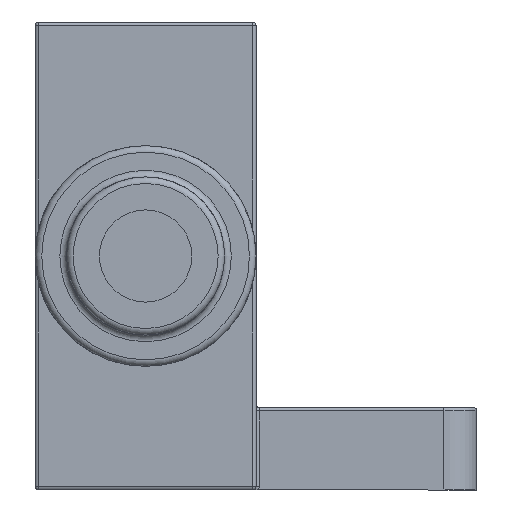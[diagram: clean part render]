
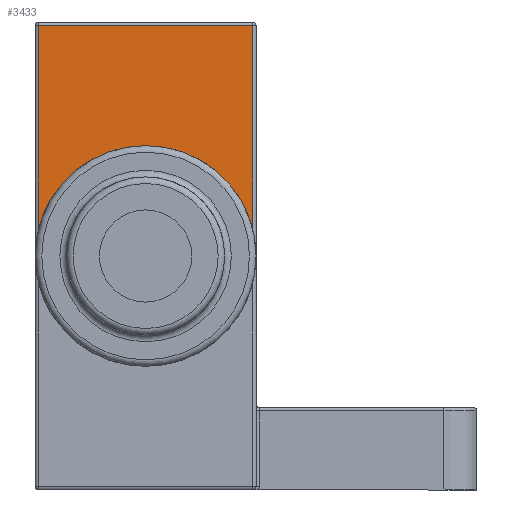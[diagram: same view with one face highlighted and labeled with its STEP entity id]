
A CAD part, front view. The second image highlights one B-rep face of the part: STEP entity #3433.
In plain terms, the highlighted planar face has unit normal (0, -1, 0).
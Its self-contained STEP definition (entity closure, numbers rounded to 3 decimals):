
#152=LINE('',#5389,#415);
#154=LINE('',#5396,#417);
#159=LINE('',#5412,#422);
#415=VECTOR('',#4260,10.);
#417=VECTOR('',#4268,10.);
#422=VECTOR('',#4287,10.);
#615=PLANE('',#3838);
#894=FACE_OUTER_BOUND('',#1134,.T.);
#1134=EDGE_LOOP('',(#2902,#2903,#2904,#2905));
#1376=CIRCLE('',#3839,3.35);
#1520=VERTEX_POINT('',#5380);
#1523=VERTEX_POINT('',#5387);
#1524=VERTEX_POINT('',#5391);
#1529=VERTEX_POINT('',#5411);
#1863=EDGE_CURVE('',#1523,#1520,#152,.T.);
#1867=EDGE_CURVE('',#1520,#1524,#154,.T.);
#1876=EDGE_CURVE('',#1524,#1529,#159,.T.);
#2087=EDGE_CURVE('',#1523,#1529,#1376,.T.);
#2902=ORIENTED_EDGE('',*,*,#2087,.T.);
#2903=ORIENTED_EDGE('',*,*,#1876,.F.);
#2904=ORIENTED_EDGE('',*,*,#1867,.F.);
#2905=ORIENTED_EDGE('',*,*,#1863,.F.);
#3433=ADVANCED_FACE('',(#894),#615,.T.);
#3838=AXIS2_PLACEMENT_3D('',#5860,#4824,#4825);
#3839=AXIS2_PLACEMENT_3D('',#5861,#4826,#4827);
#4260=DIRECTION('',(0.,0.,1.));
#4268=DIRECTION('',(1.,0.,0.));
#4287=DIRECTION('',(0.,0.,-1.));
#4824=DIRECTION('center_axis',(0.,-1.,0.));
#4825=DIRECTION('ref_axis',(1.,0.,0.));
#4826=DIRECTION('center_axis',(0.,1.,0.));
#4827=DIRECTION('ref_axis',(0.,0.,1.));
#5380=CARTESIAN_POINT('',(-8.871,-2.75,7.001));
#5387=CARTESIAN_POINT('',(-8.871,-2.75,0.813));
#5389=CARTESIAN_POINT('',(-8.871,-2.75,-7.099));
#5391=CARTESIAN_POINT('',(-2.371,-2.75,7.001));
#5396=CARTESIAN_POINT('',(-7.296,-2.75,7.001));
#5411=CARTESIAN_POINT('',(-2.371,-2.75,0.813));
#5412=CARTESIAN_POINT('',(-2.371,-2.75,-7.099));
#5860=CARTESIAN_POINT('Origin',(-8.971,-2.75,-7.099));
#5861=CARTESIAN_POINT('Origin',(-5.621,-2.75,0.001));
